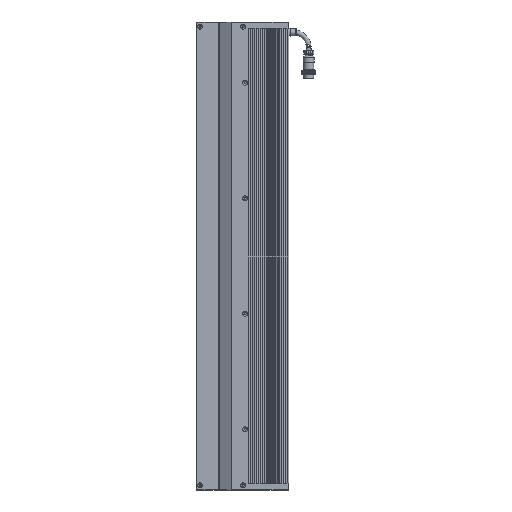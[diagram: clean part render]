
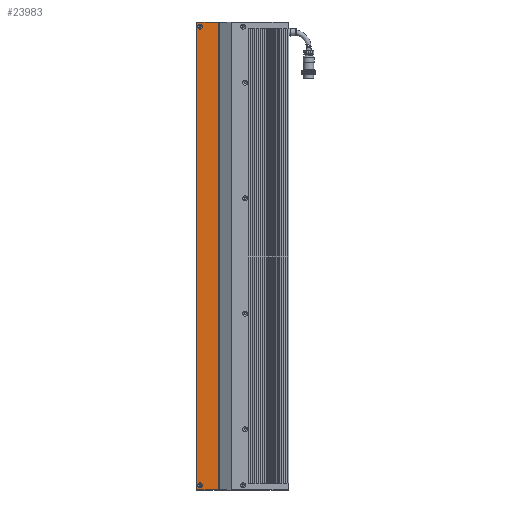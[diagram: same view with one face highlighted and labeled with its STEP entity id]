
A CAD part, left-side view. The second image highlights one B-rep face of the part: STEP entity #23983.
In plain terms, the highlighted planar face has unit normal (-1, 0, 0).
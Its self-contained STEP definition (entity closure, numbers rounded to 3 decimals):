
#1228 = DIRECTION ( 'NONE',  ( 0., 0., 1. ) ) ;
#2943 = CIRCLE ( 'NONE', #95142, 3.15 ) ;
#3053 = VECTOR ( 'NONE', #88638, 1000. ) ;
#9449 = DIRECTION ( 'NONE',  ( 0., 0., 1. ) ) ;
#11686 = AXIS2_PLACEMENT_3D ( 'NONE', #23272, #82876, #33084 ) ;
#12091 = CARTESIAN_POINT ( 'NONE',  ( -15.462, -6.987, 725.5 ) ) ;
#17384 = CARTESIAN_POINT ( 'NONE',  ( -15.462, 21.439, 727. ) ) ;
#17676 = VECTOR ( 'NONE', #58505, 1000. ) ;
#19356 = CARTESIAN_POINT ( 'NONE',  ( -15.462, -7.561, 120. ) ) ;
#23272 = CARTESIAN_POINT ( 'NONE',  ( -15.462, -7.561, 725.5 ) ) ;
#23983 = ADVANCED_FACE ( 'NONE', ( #114382, #59644, #105272 ), #119789, .F. ) ;
#24053 = AXIS2_PLACEMENT_3D ( 'NONE', #116121, #125519, #9449 ) ;
#25521 = CARTESIAN_POINT ( 'NONE',  ( -15.462, 16.939, 128.65 ) ) ;
#33084 = DIRECTION ( 'NONE',  ( 0., 0., -1. ) ) ;
#39010 = VERTEX_POINT ( 'NONE', #43649 ) ;
#40807 = ORIENTED_EDGE ( 'NONE', *, *, #58540, .F. ) ;
#43649 = CARTESIAN_POINT ( 'NONE',  ( -15.462, -6.987, 120. ) ) ;
#46036 = ORIENTED_EDGE ( 'NONE', *, *, #47163, .F. ) ;
#47163 = EDGE_CURVE ( 'NONE', #73549, #53968, #117182, .T. ) ;
#47592 = CARTESIAN_POINT ( 'NONE',  ( -15.462, 16.939, 724.65 ) ) ;
#48486 = EDGE_CURVE ( 'NONE', #88240, #88240, #2943, .T. ) ;
#50989 = LINE ( 'NONE', #59466, #58538 ) ;
#53968 = VERTEX_POINT ( 'NONE', #95185 ) ;
#54744 = EDGE_LOOP ( 'NONE', ( #114212 ) ) ;
#58505 = DIRECTION ( 'NONE',  ( 0., 1., 0. ) ) ;
#58538 = VECTOR ( 'NONE', #1228, 1000. ) ;
#58540 = EDGE_CURVE ( 'NONE', #39010, #91776, #118090, .T. ) ;
#59466 = CARTESIAN_POINT ( 'NONE',  ( -15.462, 21.439, 725.5 ) ) ;
#59644 = FACE_BOUND ( 'NONE', #54744, .T. ) ;
#64839 = CARTESIAN_POINT ( 'NONE',  ( -15.462, -7.561, 727. ) ) ;
#71471 = LINE ( 'NONE', #12091, #3053 ) ;
#73549 = VERTEX_POINT ( 'NONE', #17384 ) ;
#74051 = DIRECTION ( 'NONE',  ( -1., 0., 0. ) ) ;
#77927 = EDGE_LOOP ( 'NONE', ( #86738, #40807, #124473, #46036 ) ) ;
#79550 = ORIENTED_EDGE ( 'NONE', *, *, #48486, .F. ) ;
#82864 = CARTESIAN_POINT ( 'NONE',  ( -15.462, 21.439, 120. ) ) ;
#82876 = DIRECTION ( 'NONE',  ( 1., 0., 0. ) ) ;
#86738 = ORIENTED_EDGE ( 'NONE', *, *, #105031, .F. ) ;
#88240 = VERTEX_POINT ( 'NONE', #25521 ) ;
#88638 = DIRECTION ( 'NONE',  ( 0., 0., -1. ) ) ;
#91369 = VECTOR ( 'NONE', #122700, 1000. ) ;
#91776 = VERTEX_POINT ( 'NONE', #82864 ) ;
#95142 = AXIS2_PLACEMENT_3D ( 'NONE', #112712, #74051, #121658 ) ;
#95185 = CARTESIAN_POINT ( 'NONE',  ( -15.462, -6.987, 727. ) ) ;
#95604 = EDGE_CURVE ( 'NONE', #53968, #39010, #71471, .T. ) ;
#102313 = EDGE_LOOP ( 'NONE', ( #79550 ) ) ;
#105031 = EDGE_CURVE ( 'NONE', #91776, #73549, #50989, .T. ) ;
#105272 = FACE_OUTER_BOUND ( 'NONE', #77927, .T. ) ;
#112712 = CARTESIAN_POINT ( 'NONE',  ( -15.462, 16.939, 125.5 ) ) ;
#113931 = VERTEX_POINT ( 'NONE', #47592 ) ;
#114212 = ORIENTED_EDGE ( 'NONE', *, *, #114491, .F. ) ;
#114382 = FACE_BOUND ( 'NONE', #102313, .T. ) ;
#114491 = EDGE_CURVE ( 'NONE', #113931, #113931, #121360, .T. ) ;
#116121 = CARTESIAN_POINT ( 'NONE',  ( -15.462, 16.939, 721.5 ) ) ;
#117182 = LINE ( 'NONE', #64839, #91369 ) ;
#118090 = LINE ( 'NONE', #19356, #17676 ) ;
#119789 = PLANE ( 'NONE',  #11686 ) ;
#121360 = CIRCLE ( 'NONE', #24053, 3.15 ) ;
#121658 = DIRECTION ( 'NONE',  ( 0., 0., 1. ) ) ;
#122700 = DIRECTION ( 'NONE',  ( 0., -1., 0. ) ) ;
#124473 = ORIENTED_EDGE ( 'NONE', *, *, #95604, .F. ) ;
#125519 = DIRECTION ( 'NONE',  ( -1., 0., 0. ) ) ;
